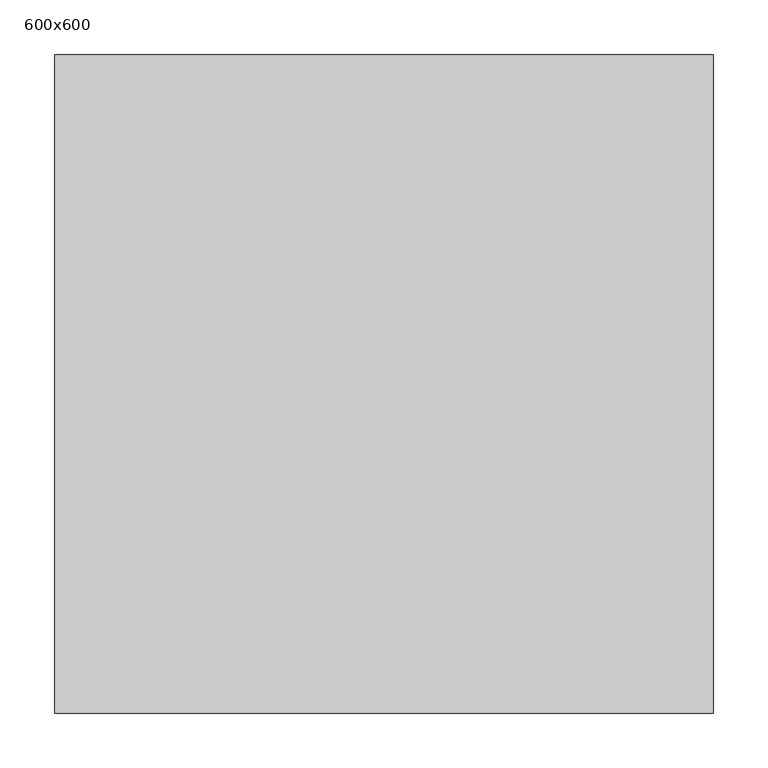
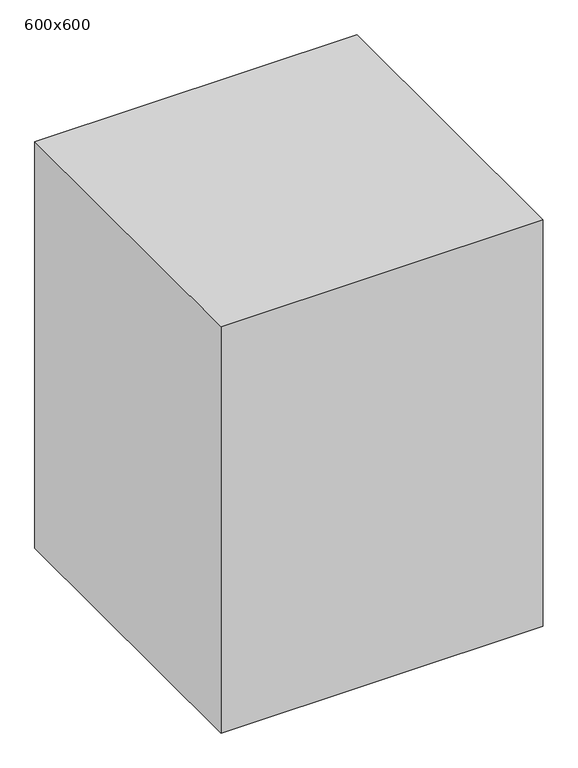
"""IFC4 building model written with IfcOpenShell, lengths in millimetres: flow terminal geometry, SP_раковина кухонная_LEG : 600x600."""

from ifc_helpers import new_model, si_unit, origin, origin_with_axes, place, context, project, spatial, polyline, outline, extrude, source, transform, mapped, element, save


def flow_terminal_600x600_410a53bb(model_context):
    return source(origin(), model_context, "Body", "SweptSolid", [
        extrude(outline(polyline([(0.0, 0.0), (-600.0, 0.0), (-600.0, 600.0), (0.0, 600.0), (0.0, 0.0)])), origin_with_axes(), (0.0, 0.0, 1.0), 800.0),
    ])


if __name__ == "__main__":
    model = new_model("IFC4")
    model_context = context("Model", 3, world=origin())
    ifc_project = project(units=[si_unit("LENGTHUNIT", "METRE", prefix="MILLI")], contexts=[model_context])
    site = spatial("IfcSite", under=ifc_project)
    building = spatial("IfcBuilding", under=site)
    placement = place(None, origin())
    flow_terminal_600x600_shape = flow_terminal_600x600_410a53bb(model_context)
    element("IfcFlowTerminal", 1, ObjectType="SP_раковина кухонная_LEG : 600x600", at=placement, inside=building, context=model_context, shape_type="MappedRepresentation", body=[
        mapped(flow_terminal_600x600_shape, transform((0.0, 0.0, 0.0), x_axis=(1.0, 0.0, 0.0), y_axis=(0.0, 1.0, 0.0), z_axis=(0.0, 0.0, 1.0))),
    ])
    save(model, "model.ifc")
